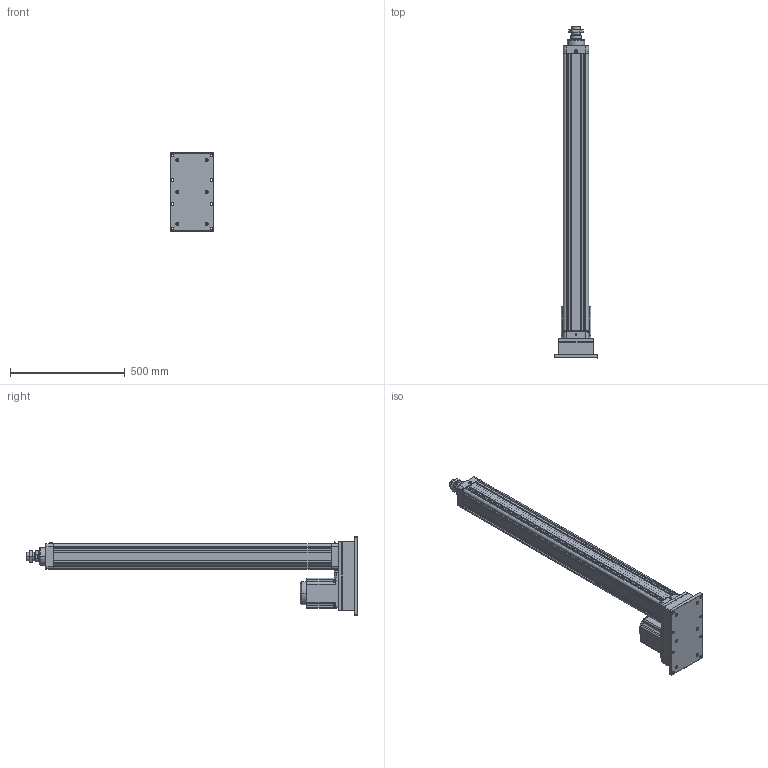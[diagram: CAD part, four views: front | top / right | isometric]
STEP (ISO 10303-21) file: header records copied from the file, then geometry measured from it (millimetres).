
FILE_DESCRIPTION((''),'2;1');
FILE_NAME('HE100-D-P_ASM','2020-04-21T',('ASUS20200'),(''),'CREO PARAMETRIC BY PTC INC, 2014190','CREO PARAMETRIC BY PTC INC, 2014190','');
FILE_SCHEMA(('CONFIG_CONTROL_DESIGN'));
Length unit declared in the file: millimetre
Products named in the file (23): HE100-D-P-001-X1; HE100-D-P-002-X1; HE100-D-P-003-X1; JDB506030; SLM-01; YZ-M6X1; HE100-100-D-P-X1_ASM; HE100-P-010-X1-130N; 130ST-M10010; HE100-P-009-X1-130N; HE100-P-013-X1-130N; TD-8; M8X35; M8X75; LM-M8-7-5; M10X1-25-40; LM-M10-30; LM-M10; HE100-D-P-005-X1; HE100-D-P-004-X1; HE80-D-P-008-X1; LGLM-M10-25; HE100-D-P_ASM
Assembly tree (39 placements, depth 3):
  HE100-D-P_ASM
    HE100-100-D-P-X1_ASM
      HE100-D-P-001-X1
      HE100-D-P-002-X1
      HE100-D-P-003-X1
      JDB506030
      SLM-01
      YZ-M6X1
    HE100-P-010-X1-130N
    130ST-M10010
    HE100-P-009-X1-130N
    HE100-P-013-X1-130N
    TD-8  x4
    M8X35  x4
    M8X75  x6
    LM-M8-7-5  x4
    M10X1-25-40
    LM-M10-30
    LM-M10
    HE100-D-P-005-X1
    HE100-D-P-004-X1
    HE80-D-P-008-X1
    LGLM-M10-25  x4
Bounding box: 190 x 1444 x 340 mm (x, y, z)
Volume: 8780900.6 mm3; surface area: 2261731.8 mm2
Topology: 38 solids, 68 shells, 1817 faces, 4235 edges, 2575 vertices
Faces by surface type: plane 652, cone 580, cylinder 489, torus 66, sphere 26, bspline 4
Entity records: 42220 total; most frequent: CARTESIAN_POINT 8296, DIRECTION 7490, ORIENTED_EDGE 6508, EDGE_CURVE 3305, AXIS2_PLACEMENT_3D 2880, VERTEX_POINT 2010, VECTOR 1730, LINE 1730
